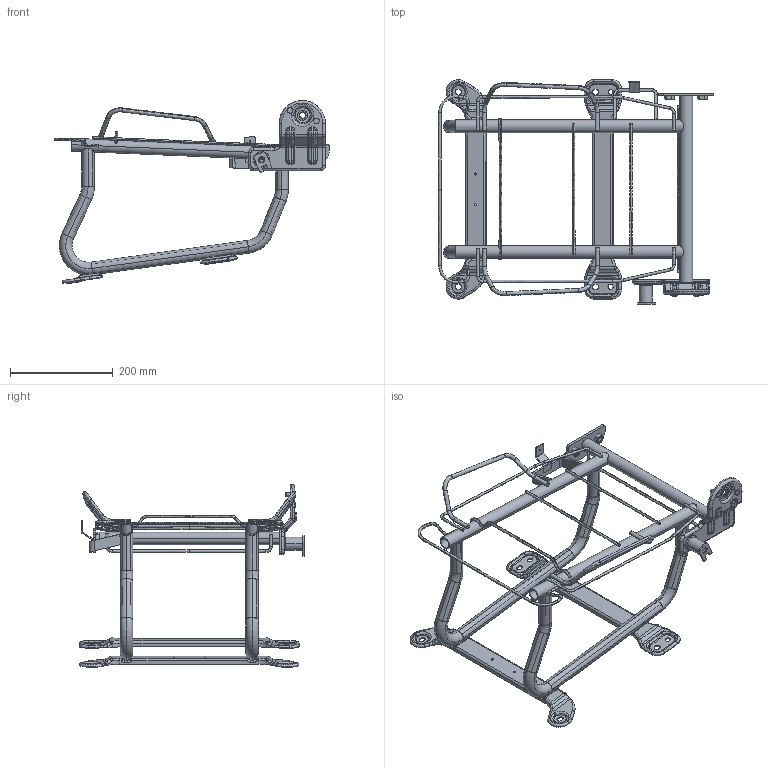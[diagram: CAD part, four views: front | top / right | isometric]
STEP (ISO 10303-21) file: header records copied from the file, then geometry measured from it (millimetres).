
FILE_DESCRIPTION(('CATIA V5 STEP Exchange'),'2;1');
FILE_NAME('C:\Users\Administrator\Desktop\解放底支架更改\SHT0014466-20250307.stp','2025-03-07T07:40:43+00:00',('none'),('none'),'CATIA Version 5 Release 20 GA (IN-10)','CATIA V5 STEP AP214','none');
FILE_SCHEMA(('AUTOMOTIVE_DESIGN { 1 0 10303 214 1 1 1 1 }'));
Length unit declared in the file: millimetre
Products named in the file (24): SHT0014466; SHT0014467; SHT0014468; SHT0014469; RC02-6802404-3; RC02 6802 404; Q370C10; M4-6907009; SQXM3000-6901105; SHT0015547; SHT0014967; SHT0014970; SHT0014973; SHT0014972; SHT0014974; SHT0014969; SHT0014968; SHT0014965; SHT0015061; SHT0014964; 321721801400; SHT0017963; H4681010216A0; SLT0010907
Assembly tree (29 placements, depth 3):
  SHT0014466
    SHT0014467
    SHT0014468
    SHT0014469  x2
    RC02-6802404-3
      RC02 6802 404
      Q370C10  x2
    M4-6907009
    SQXM3000-6901105  x2
    SHT0015547
    SHT0014967  x2
    SHT0014970  x2
    SHT0014973
    SHT0014972
    SHT0014974
    SHT0014969
    SHT0014968
    SHT0014965
    SHT0015061
      SHT0014964
      321721801400
    SHT0017963
    H4681010216A0
    SLT0010907  x2
Bounding box: 536.08 x 438.58 x 356.57 mm (x, y, z)
Volume: 693549.3 mm3; surface area: 652277.2 mm2
Topology: 27 solids, 27 shells, 1534 faces, 3691 edges, 2217 vertices
Faces by surface type: cylinder 663, torus 274, plane 264, bspline 222, revolution 56, cone 22, extrusion 17, sphere 16
Entity records: 57819 total; most frequent: CARTESIAN_POINT 28961, ORIENTED_EDGE 6544, DIRECTION 4421, EDGE_CURVE 3272, AXIS2_PLACEMENT_3D 2235, VERTEX_POINT 1967, EDGE_LOOP 1421, ADVANCED_FACE 1362
